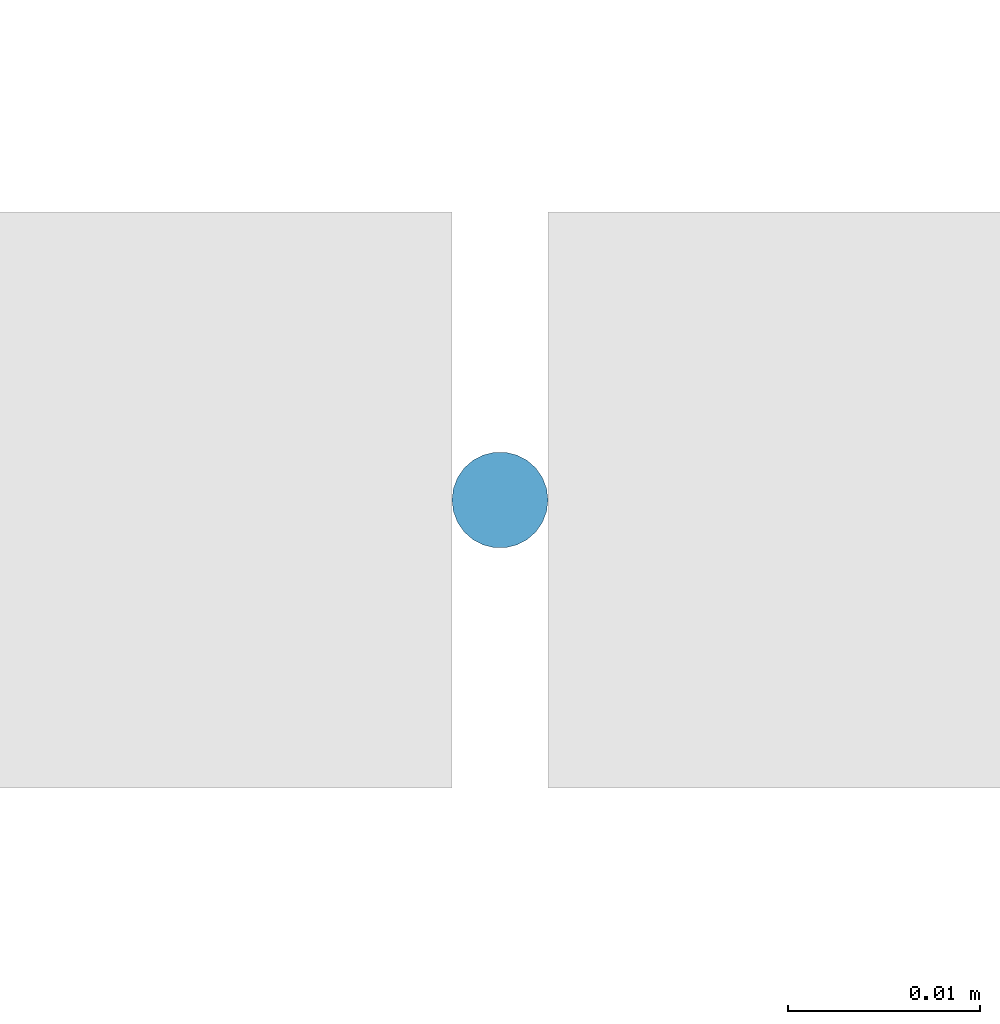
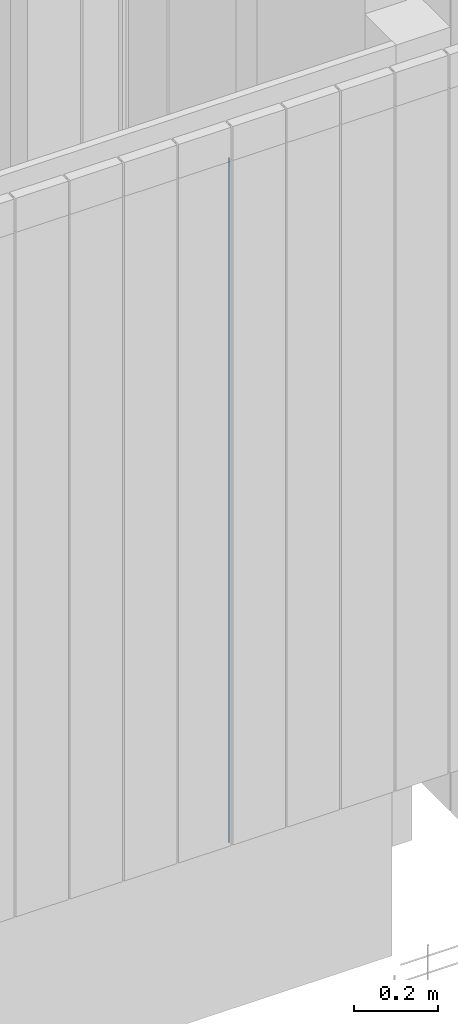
# One storey, part 18 of 81: 1 member, 1 element without a shape of its own.
"""IFC2X3 building model written with IfcOpenShell, lengths in metres."""

from ifc_helpers import new_model, entity, si_unit, converted_unit, derived_unit, direction, frame, frame_2d, origin, place, context, subcontext, project, spatial, circle, extrude, source, transform, mapped, material, type_object, type_shapes, element, aggregate, save


model = new_model("IFC2X3")

# Units and contexts
model_context = context("Model", 3, precision=1e-05, world=origin(), true_north=direction((6.12303176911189e-17, 1.0)))
body_context = subcontext(model_context, "Body", "Model", "MODEL_VIEW")
ifc_project = project(units=[si_unit("LENGTHUNIT", "METRE"), si_unit("AREAUNIT", "SQUARE_METRE"), si_unit("VOLUMEUNIT", "CUBIC_METRE"), converted_unit("PLANEANGLEUNIT", "DEGREE", entity("IfcRatioMeasure", 0.0174532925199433), si_unit("PLANEANGLEUNIT", "RADIAN"), dimensions=[0, 0, 0, 0, 0, 0, 0]), si_unit("MASSUNIT", "GRAM", prefix="KILO"), derived_unit("MASSDENSITYUNIT", [(si_unit("MASSUNIT", "GRAM", prefix="KILO"), 1), (si_unit("LENGTHUNIT", "METRE"), -3)]), derived_unit("MOMENTOFINERTIAUNIT", [(si_unit("LENGTHUNIT", "METRE"), 4)]), si_unit("TIMEUNIT", "SECOND"), si_unit("FREQUENCYUNIT", "HERTZ"), si_unit("THERMODYNAMICTEMPERATUREUNIT", "DEGREE_CELSIUS"), derived_unit("THERMALTRANSMITTANCEUNIT", [(si_unit("MASSUNIT", "GRAM", prefix="KILO"), 1), (si_unit("THERMODYNAMICTEMPERATUREUNIT", "KELVIN"), -1), (si_unit("TIMEUNIT", "SECOND"), -3)]), derived_unit("VOLUMETRICFLOWRATEUNIT", [(si_unit("LENGTHUNIT", "METRE"), 3), (si_unit("TIMEUNIT", "SECOND"), -1)]), si_unit("ELECTRICCURRENTUNIT", "AMPERE"), si_unit("ELECTRICVOLTAGEUNIT", "VOLT"), si_unit("POWERUNIT", "WATT"), si_unit("FORCEUNIT", "NEWTON", prefix="KILO"), si_unit("ILLUMINANCEUNIT", "LUX"), si_unit("LUMINOUSFLUXUNIT", "LUMEN"), si_unit("LUMINOUSINTENSITYUNIT", "CANDELA"), derived_unit("USERDEFINED", [(si_unit("MASSUNIT", "GRAM", prefix="KILO"), -1), (si_unit("LENGTHUNIT", "METRE"), -2), (si_unit("TIMEUNIT", "SECOND"), 3), (si_unit("LUMINOUSFLUXUNIT", "LUMEN"), 1)]), derived_unit("LINEARVELOCITYUNIT", [(si_unit("LENGTHUNIT", "METRE"), 1), (si_unit("TIMEUNIT", "SECOND"), -1)]), si_unit("PRESSUREUNIT", "PASCAL"), derived_unit("USERDEFINED", [(si_unit("LENGTHUNIT", "METRE"), -2), (si_unit("MASSUNIT", "GRAM", prefix="KILO"), 1), (si_unit("TIMEUNIT", "SECOND"), -2)]), derived_unit("LINEARFORCEUNIT", [(si_unit("MASSUNIT", "GRAM", prefix="KILO"), 1), (si_unit("LENGTHUNIT", "METRE"), 1), (si_unit("TIMEUNIT", "SECOND"), -2), (si_unit("LENGTHUNIT", "METRE"), -1)]), derived_unit("PLANARFORCEUNIT", [(si_unit("MASSUNIT", "GRAM", prefix="KILO"), 1), (si_unit("LENGTHUNIT", "METRE"), 1), (si_unit("TIMEUNIT", "SECOND"), -2), (si_unit("LENGTHUNIT", "METRE"), -2)])], contexts=[model_context])

# Site, building, storey
site_placement = place(None, origin())
site = spatial("IfcSite", under=ifc_project, at=site_placement, Name="Surface", CompositionType="ELEMENT")
building_placement = place(site_placement, origin())
building = spatial("IfcBuilding", under=site, at=building_placement, CompositionType="ELEMENT")
storey_placement = place(building_placement, origin())
storey = spatial("IfcBuildingStorey", under=building, at=storey_placement, Name="01 RDC", CompositionType="ELEMENT", Elevation=-1.94916083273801e-14)

# Curtain wall, member
curtain_wall_type = type_object("IfcCurtainWallType", Name="Mur-rideau:1m x 2m", PredefinedType="NOTDEFINED")
curtain_wall_placement = place(storey_placement, origin())
curtain_wall = element("IfcCurtainWall", 1, at=curtain_wall_placement, inside=storey, type_object=curtain_wall_type, Name="Mur-rideau:1m x 2m", ObjectType="Mur-rideau:1m x 2m")
ifc_material = material(Name="Aluminium - Vert")
member_type = type_object("IfcMemberType", Name="Meneau circulaire:R-30 mm", PredefinedType="MULLION", material=ifc_material)
shared_shape = source(origin(), body_context, "Body", "SweptSolid", [
    extrude(circle(Radius=0.0025, at=frame_2d((-8.37005581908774e-27, 3.23452349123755e-15), x_axis=(1.0, 0.0))), frame((0.0, 0.0, -2.0), z_axis=(0.0, 0.0, 1.0), x_axis=(-1.0, 0.0, 0.0)), (0.0, 0.0, 1.0), 2.0),
])
type_shapes(member_type, [shared_shape])
member_placement = place(storey_placement, frame((7.26906158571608, -6.30971095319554, 0.3), z_axis=(0.0, 0.0, -1.0), x_axis=(-1.0, 0.0, 0.0)))
member = element("IfcMember", 2, at=member_placement, type_object=member_type, material=ifc_material, Name="Meneau circulaire:R-30 mm", ObjectType="Meneau circulaire:R-30 mm", context=body_context, shape_type="MappedRepresentation", body=[
    mapped(shared_shape, transform((0.0, 0.0, 0.0), scale=1.0)),
])
aggregate(curtain_wall, [member])

save(model, "model.ifc")
